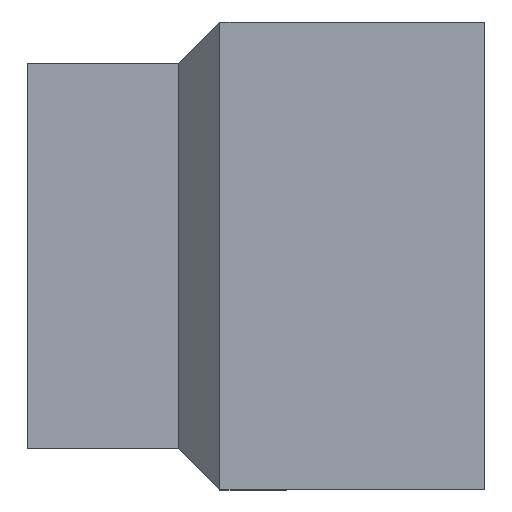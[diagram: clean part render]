
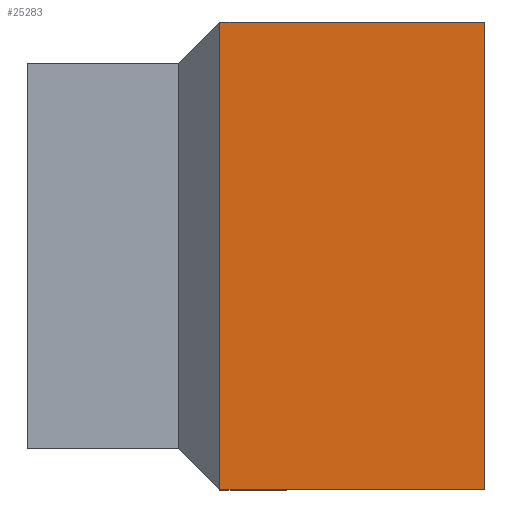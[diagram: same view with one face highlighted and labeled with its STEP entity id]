
A CAD part, left-side view. The second image highlights one B-rep face of the part: STEP entity #25283.
In plain terms, the highlighted planar face has unit normal (-1, 0, 0).
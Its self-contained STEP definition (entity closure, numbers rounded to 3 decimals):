
#13873 = LINE ( 'NONE', #13930, #13929 ) ;
#13889 = CARTESIAN_POINT ( 'NONE',  ( -61.175, -4.71, -2.715 ) ) ;
#13927 = CARTESIAN_POINT ( 'NONE',  ( -61.175, -4.71, 8.715 ) ) ;
#13928 = DIRECTION ( 'NONE',  ( 0., 0., -1. ) ) ;
#13929 = VECTOR ( 'NONE', #13928, 1000. ) ;
#13930 = CARTESIAN_POINT ( 'NONE',  ( -61.175, -4.71, -2.715 ) ) ;
#13965 = DIRECTION ( 'NONE',  ( 0., -1., 0. ) ) ;
#13966 = DIRECTION ( 'NONE',  ( -1., 0., 0. ) ) ;
#13967 = CARTESIAN_POINT ( 'NONE',  ( -61.175, -11.18, -2.715 ) ) ;
#13969 = AXIS2_PLACEMENT_3D ( 'NONE', #13967, #13966, #13965 ) ;
#13970 = PLANE ( 'NONE',  #13969 ) ;
#13971 = FACE_OUTER_BOUND ( 'NONE', #25284, .T. ) ;
#13972 = DIRECTION ( 'NONE',  ( 0., -1., 0. ) ) ;
#13973 = VECTOR ( 'NONE', #13972, 1000. ) ;
#13974 = CARTESIAN_POINT ( 'NONE',  ( -61.175, -11.18, -2.715 ) ) ;
#13975 = LINE ( 'NONE', #13974, #13973 ) ;
#13976 = CARTESIAN_POINT ( 'NONE',  ( -61.175, -11.18, -2.715 ) ) ;
#14109 = DIRECTION ( 'NONE',  ( 0., -1., 0. ) ) ;
#14110 = VECTOR ( 'NONE', #14109, 1000. ) ;
#14111 = CARTESIAN_POINT ( 'NONE',  ( -61.175, -11.18, 8.715 ) ) ;
#14112 = LINE ( 'NONE', #14111, #14110 ) ;
#14113 = CARTESIAN_POINT ( 'NONE',  ( -61.175, -11.18, 8.715 ) ) ;
#14114 = DIRECTION ( 'NONE',  ( 0., 0., 1. ) ) ;
#14115 = VECTOR ( 'NONE', #14114, 1000. ) ;
#14116 = CARTESIAN_POINT ( 'NONE',  ( -61.175, -11.18, 3. ) ) ;
#14117 = LINE ( 'NONE', #14116, #14115 ) ;
#25239 = VERTEX_POINT ( 'NONE', #13889 ) ;
#25249 = EDGE_CURVE ( 'NONE', #25250, #25239, #13873, .T. ) ;
#25250 = VERTEX_POINT ( 'NONE', #13927 ) ;
#25279 = VERTEX_POINT ( 'NONE', #13976 ) ;
#25281 = EDGE_CURVE ( 'NONE', #25239, #25279, #13975, .T. ) ;
#25283 = ADVANCED_FACE ( 'NONE', ( #13971 ), #13970, .T. ) ;
#25284 = EDGE_LOOP ( 'NONE', ( #25285, #25338, #25341, #25343 ) ) ;
#25285 = ORIENTED_EDGE ( 'NONE', *, *, #25281, .T. ) ;
#25338 = ORIENTED_EDGE ( 'NONE', *, *, #25339, .T. ) ;
#25339 = EDGE_CURVE ( 'NONE', #25279, #25340, #14117, .T. ) ;
#25340 = VERTEX_POINT ( 'NONE', #14113 ) ;
#25341 = ORIENTED_EDGE ( 'NONE', *, *, #25342, .F. ) ;
#25342 = EDGE_CURVE ( 'NONE', #25250, #25340, #14112, .T. ) ;
#25343 = ORIENTED_EDGE ( 'NONE', *, *, #25249, .T. ) ;
